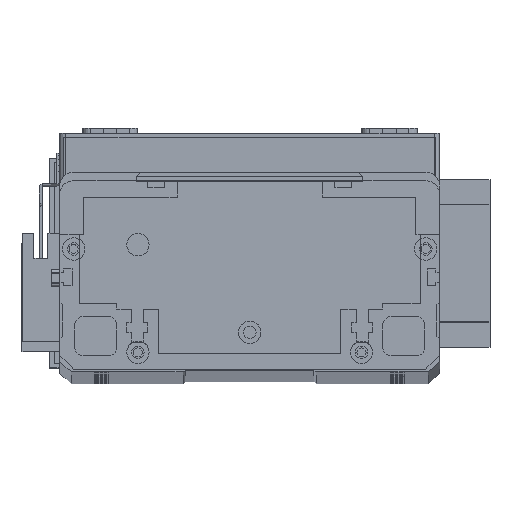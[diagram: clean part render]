
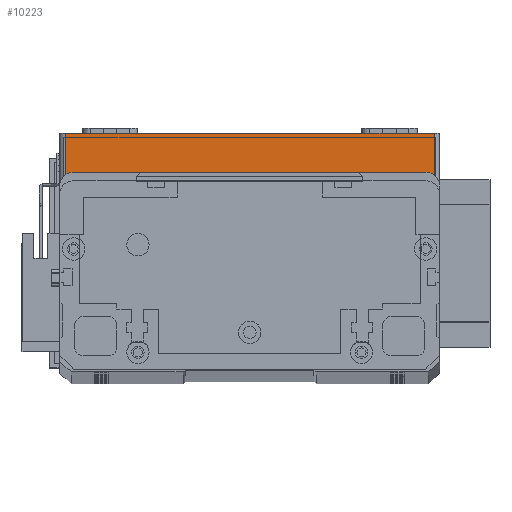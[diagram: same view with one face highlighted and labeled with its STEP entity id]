
A CAD part, top view. The second image highlights one B-rep face of the part: STEP entity #10223.
In plain terms, the highlighted planar face has unit normal (0, 0, 1) as drawn and (0, -1, 0) by its records, which use the part's own axes.
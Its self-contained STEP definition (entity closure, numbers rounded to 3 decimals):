
#107 = CARTESIAN_POINT ( 'NONE',  ( 2., 0., 19.5 ) ) ;
#142 = VECTOR ( 'NONE', #23423, 1000. ) ;
#298 = CARTESIAN_POINT ( 'NONE',  ( 134., 0., 19.5 ) ) ;
#377 = CARTESIAN_POINT ( 'NONE',  ( 0., 0., 19.5 ) ) ;
#1766 = EDGE_LOOP ( 'NONE', ( #3352, #29515, #21815, #18628 ) ) ;
#2437 = VECTOR ( 'NONE', #15987, 1000. ) ;
#2491 = EDGE_CURVE ( 'NONE', #14834, #18066, #7980, .T. ) ;
#2722 = DIRECTION ( 'NONE',  ( 0., 1., 0. ) ) ;
#3352 = ORIENTED_EDGE ( 'NONE', *, *, #2491, .F. ) ;
#3694 = CARTESIAN_POINT ( 'NONE',  ( 134., 0., 0. ) ) ;
#4093 = AXIS2_PLACEMENT_3D ( 'NONE', #377, #2722, #19249 ) ;
#4681 = EDGE_CURVE ( 'NONE', #11512, #8977, #17503, .T. ) ;
#4997 = DIRECTION ( 'NONE',  ( 0., 0., 1. ) ) ;
#6082 = CARTESIAN_POINT ( 'NONE',  ( 2., 0., 0. ) ) ;
#6835 = CARTESIAN_POINT ( 'NONE',  ( 2., 0., 19.5 ) ) ;
#7561 = FACE_OUTER_BOUND ( 'NONE', #1766, .T. ) ;
#7635 = LINE ( 'NONE', #6835, #12444 ) ;
#7980 = LINE ( 'NONE', #30128, #2437 ) ;
#8977 = VERTEX_POINT ( 'NONE', #3694 ) ;
#10223 = ADVANCED_FACE ( 'NONE', ( #7561 ), #14521, .F. ) ;
#11512 = VERTEX_POINT ( 'NONE', #6082 ) ;
#12444 = VECTOR ( 'NONE', #25743, 1000. ) ;
#14521 = PLANE ( 'NONE',  #4093 ) ;
#14834 = VERTEX_POINT ( 'NONE', #107 ) ;
#15987 = DIRECTION ( 'NONE',  ( 1., 0., 0. ) ) ;
#16115 = VECTOR ( 'NONE', #4997, 1000. ) ;
#17457 = EDGE_CURVE ( 'NONE', #8977, #18066, #22377, .T. ) ;
#17503 = LINE ( 'NONE', #30562, #142 ) ;
#18066 = VERTEX_POINT ( 'NONE', #28972 ) ;
#18628 = ORIENTED_EDGE ( 'NONE', *, *, #17457, .T. ) ;
#19249 = DIRECTION ( 'NONE',  ( 0., 0., 1. ) ) ;
#21815 = ORIENTED_EDGE ( 'NONE', *, *, #4681, .T. ) ;
#22377 = LINE ( 'NONE', #298, #16115 ) ;
#23423 = DIRECTION ( 'NONE',  ( 1., 0., 0. ) ) ;
#25743 = DIRECTION ( 'NONE',  ( 0., 0., -1. ) ) ;
#27301 = EDGE_CURVE ( 'NONE', #14834, #11512, #7635, .T. ) ;
#28972 = CARTESIAN_POINT ( 'NONE',  ( 134., 0., 19.5 ) ) ;
#29515 = ORIENTED_EDGE ( 'NONE', *, *, #27301, .T. ) ;
#30128 = CARTESIAN_POINT ( 'NONE',  ( 0., 0., 19.5 ) ) ;
#30562 = CARTESIAN_POINT ( 'NONE',  ( 0., 0., 0. ) ) ;
